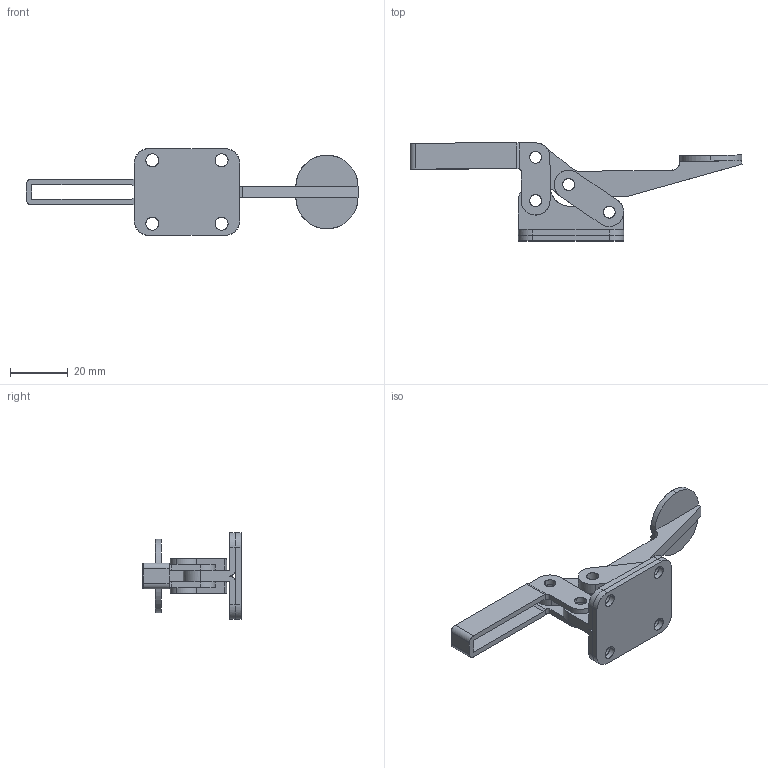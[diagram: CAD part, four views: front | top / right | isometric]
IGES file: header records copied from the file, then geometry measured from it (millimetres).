
Start section: Comment
Global section: file name: 20300.igs; native system:  By Spatial Corp.; preprocessor: XPlus PS/IGES 3.0; author: Author; organization: Title; date: 20050317.100154; units: inch
Bounding box: 115.04 x 34 x 30 mm (x, y, z)
Surface area: 13183.4 mm2 (no closed solid volume)
Topology: 0 solids, 0 shells, 138 faces, 732 edges, 732 vertices
Faces by surface type: revolution 79, extrusion 59
